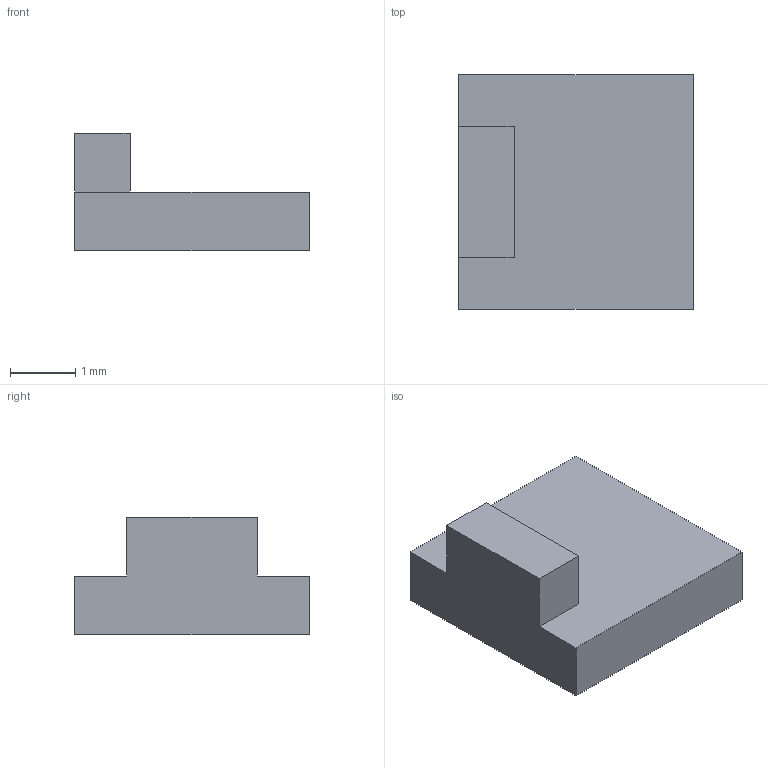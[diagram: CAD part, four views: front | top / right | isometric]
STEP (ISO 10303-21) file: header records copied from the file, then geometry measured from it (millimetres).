
FILE_DESCRIPTION(('Open CASCADE Model'),'2;1');
FILE_NAME('Open CASCADE Shape Model','2026-09-09T11:51:01',('Author'),( 'Open CASCADE'),'Open CASCADE STEP processor 7.7','Open CASCADE 7.7' ,'Unknown');
FILE_SCHEMA(('AUTOMOTIVE_DESIGN { 1 0 10303 214 1 1 1 1 }'));
Length unit declared in the file: millimetre
Products named in the file (1): Open CASCADE STEP translator 7.7 13
Bounding box: 3.6 x 3.6 x 1.8 mm (x, y, z)
Volume: 13.2 mm3; surface area: 44 mm2
Topology: 1 solids, 1 shells, 10 faces, 24 edges, 16 vertices
Faces by surface type: plane 10
Entity records: 610 total; most frequent: CARTESIAN_POINT 99, DIRECTION 94, LINE 72, VECTOR 72, ORIENTED_EDGE 48, PCURVE 48, DEFINITIONAL_REPRESENTATION 48, EDGE_CURVE 24
